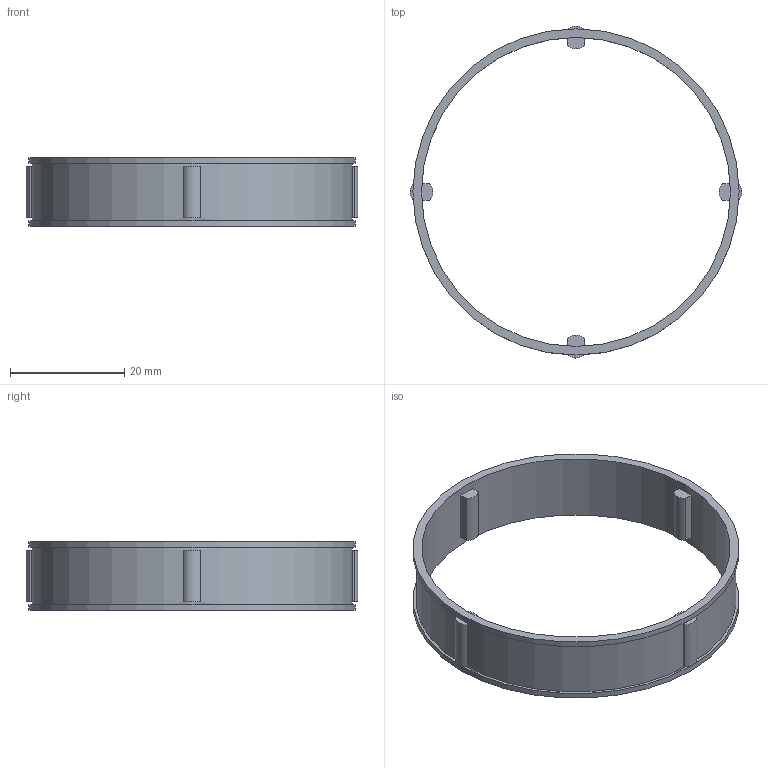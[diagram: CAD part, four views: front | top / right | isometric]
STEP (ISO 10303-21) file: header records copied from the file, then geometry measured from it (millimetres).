
FILE_DESCRIPTION(/* description */ (''),/* implementation_level */ '2;1');
FILE_NAME(/* name */ '300489 FE 458 Z.stp',/* time_stamp */ '2016-11-03T10:27:47+01:00',/* author */ (''),/* organization */ (''),/* preprocessor_version */ 'ST-DEVELOPER v15',/* originating_system */ 'SIEMENS PLM Software NX 8.5',/* authorisation */ '');
FILE_SCHEMA (('CONFIG_CONTROL_DESIGN'));
Length unit declared in the file: millimetre
Products named in the file (1): ATE0000080_01
Bounding box: 58 x 58 x 12 mm (x, y, z)
Volume: 2526.5 mm3; surface area: 5064.1 mm2
Topology: 1 solids, 1 shells, 48 faces, 114 edges, 76 vertices
Faces by surface type: plane 36, cylinder 12
Full cylindrical faces by diameter (mm): 54 x1, 56 x1, 57 x2
Entity records: 1420 total; most frequent: DIRECTION 242, CARTESIAN_POINT 225, ORIENTED_EDGE 208, EDGE_CURVE 104, AXIS2_PLACEMENT_3D 89, VERTEX_POINT 72, LINE 64, VECTOR 64
